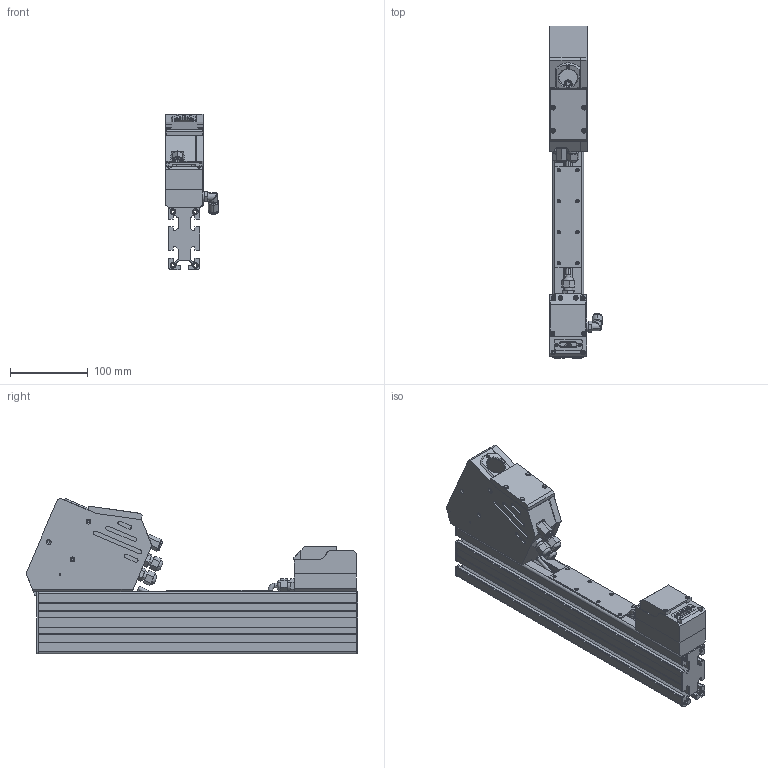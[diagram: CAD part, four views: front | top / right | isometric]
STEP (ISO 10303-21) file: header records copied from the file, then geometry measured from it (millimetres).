
FILE_DESCRIPTION (( 'STEP AP203' ), '1' );
FILE_NAME ('RF 625-540_1450.STEP', '2014-04-24T11:59:14', ( 'DNA7 X86' ), ( 'DNA Project' ), 'SwSTEP 2.0', 'SolidWorks 2012', '' );
FILE_SCHEMA (( 'CONFIG_CONTROL_DESIGN' ));
Length unit declared in the file: millimetre
Products named in the file (21): RF 625-540_1450; ÐÔ 620.28_Ïðèåìíàÿ ÷àñòü; FESTO QS_G1''8_8; RF 620.28.077_Ñîïëî; Øàéáà ïðóæèííàÿ_5; Âèíò_Ì5õ15; RF 620.28.078_Êðûøêà îïò Íîâ ýë óíèâåðñàë; 2D_瀇鳧罻2 288; RF049.00_Ðàìêà îêíà2; RF 620.28.075_Îñíîâà îïò Íîâ ýë óíèâåðñ.; RF049.028_Êðûøêà áàëêè; RF049.35_Ðàìêà îêíà; RF049.028_Ñîïëî2; FESTO QSL_F_G1''8_8; 2D_瀇鳧罻1 288; 2D_瀇僔蠂縺 288; 2D_罻摎錪  1000 1000; 佤瞁鍱; 2D_êðûøêà ëàç. 1000_1000; 2D_îñíîâà ëàç. 1000_1000; Rexroth-3 842 993  2D 1000_1000
Assembly tree (26 placements, depth 3):
  RF 625-540_1450
    Rexroth-3 842 993  2D 1000_1000
    2D_îñíîâà ëàç. 1000_1000
    2D_êðûøêà ëàç. 1000_1000
    佤瞁鍱
    2D_罻摎錪  1000 1000
    2D_瀇僔蠂縺 288
    2D_瀇鳧罻1 288
    FESTO QSL_F_G1''8_8
    RF049.028_Ñîïëî2
    RF049.35_Ðàìêà îêíà
    RF049.028_Êðûøêà áàëêè  x2
    ÐÔ 620.28_Ïðèåìíàÿ ÷àñòü
      RF 620.28.075_Îñíîâà îïò Íîâ ýë óíèâåðñ.
      佤瞁鍱  x3
      RF049.00_Ðàìêà îêíà2
      2D_瀇鳧罻2 288
      RF 620.28.078_Êðûøêà îïò Íîâ ýë óíèâåðñàë
      Âèíò_Ì5õ15  x2
      Øàéáà ïðóæèííàÿ_5  x2
      RF 620.28.077_Ñîïëî
      FESTO QS_G1''8_8
Bounding box: 68.3 x 427.97 x 200.33 mm (x, y, z)
Volume: 824217.4 mm3; surface area: 557274.7 mm2
Topology: 25 solids, 25 shells, 1593 faces, 4240 edges, 2722 vertices
Faces by surface type: plane 805, cylinder 602, cone 160, torus 24, bspline 2
Entity records: 46120 total; most frequent: CARTESIAN_POINT 8364, DIRECTION 7540, ORIENTED_EDGE 7272, EDGE_CURVE 3636, AXIS2_PLACEMENT_3D 2599, VERTEX_POINT 2364, LINE 2342, VECTOR 2342
